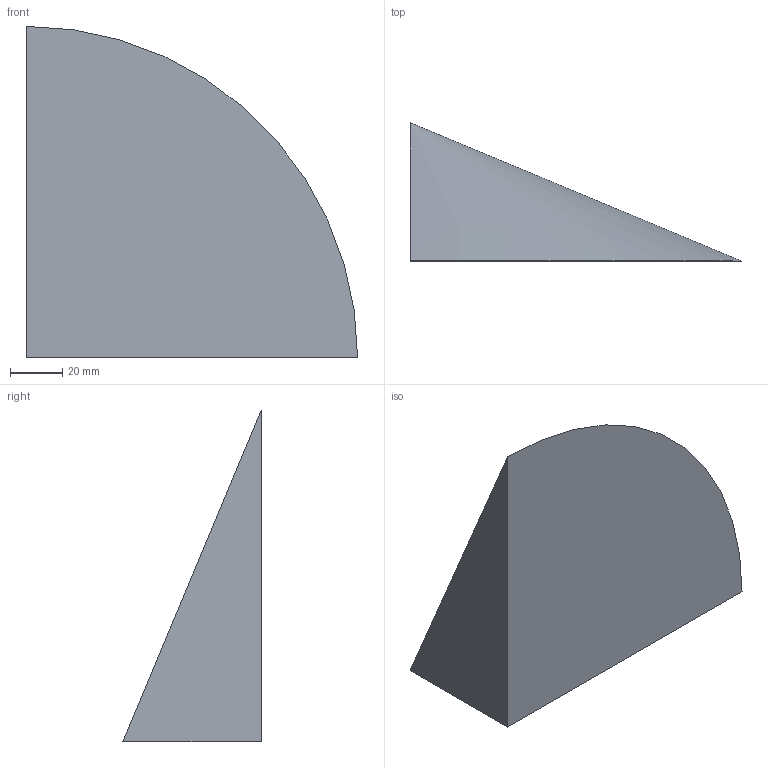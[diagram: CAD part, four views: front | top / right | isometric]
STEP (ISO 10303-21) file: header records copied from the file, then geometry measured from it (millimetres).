
FILE_DESCRIPTION(('CATIA V5 STEP Exchange'),'2;1');
FILE_NAME('C:\_Andres\UNIVERSIDAD\IQS\ASIGNATURAS\DAO\EXF\EXF-16172c\2inicio\Reyes_Carmenaty_Ej07_v27.stp','2017-03-05T21:18:14+00:00',('none'),('none'),'CATIA Version 5-6 Release 2014 SP1 HF18','CATIA V5 STEP AP203','none');
FILE_SCHEMA(('CONFIG_CONTROL_DESIGN'));
Length unit declared in the file: millimetre
Products named in the file (1): Reyes_Carmenaty_Ej07_v27
Bounding box: 127 x 53 x 127 mm (x, y, z)
Volume: 223795.8 mm3; surface area: 33125.2 mm2
Topology: 1 solids, 1 shells, 4 faces, 7 edges, 4 vertices
Faces by surface type: plane 3, cone 1
Entity records: 131 total; most frequent: CARTESIAN_POINT 15, DIRECTION 14, ORIENTED_EDGE 12, AXIS2_PLACEMENT_3D 6, EDGE_CURVE 6, VECTOR 5, LINE 5, ADVANCED_FACE 4
